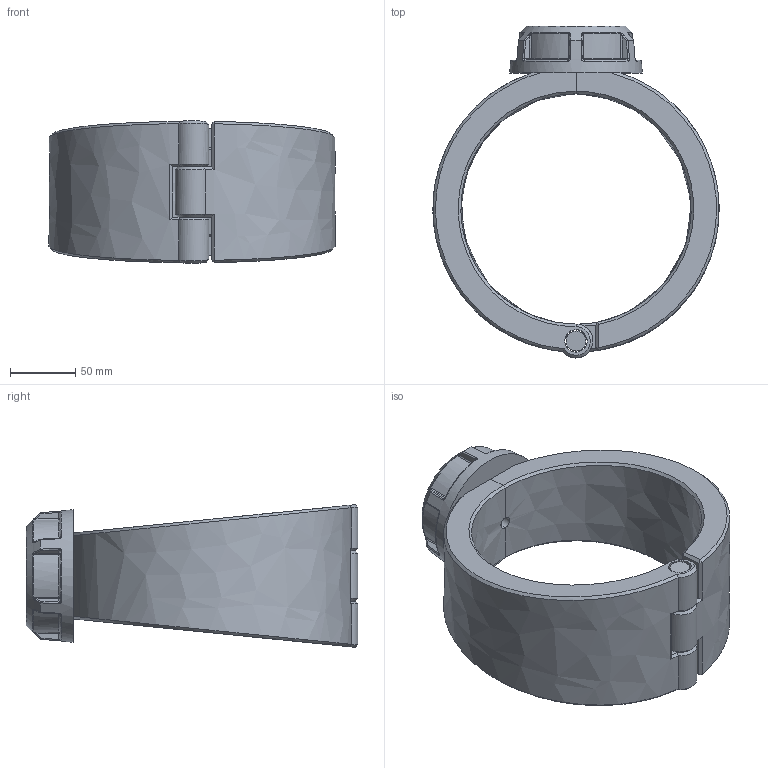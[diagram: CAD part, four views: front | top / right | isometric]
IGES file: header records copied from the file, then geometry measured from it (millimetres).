
Global section: file name: 163000177005; native system: Autodesk Inventor 2019; preprocessor: unknown; author: comp2; date: 20220203.115146; units: millimetre
Bounding box: 220 x 255 x 109.6 mm (x, y, z)
Volume: 1362091.5 mm3; surface area: 177533.3 mm2
Topology: 4 solids, 4 shells, 203 faces, 486 edges, 293 vertices
Faces by surface type: bspline 203
